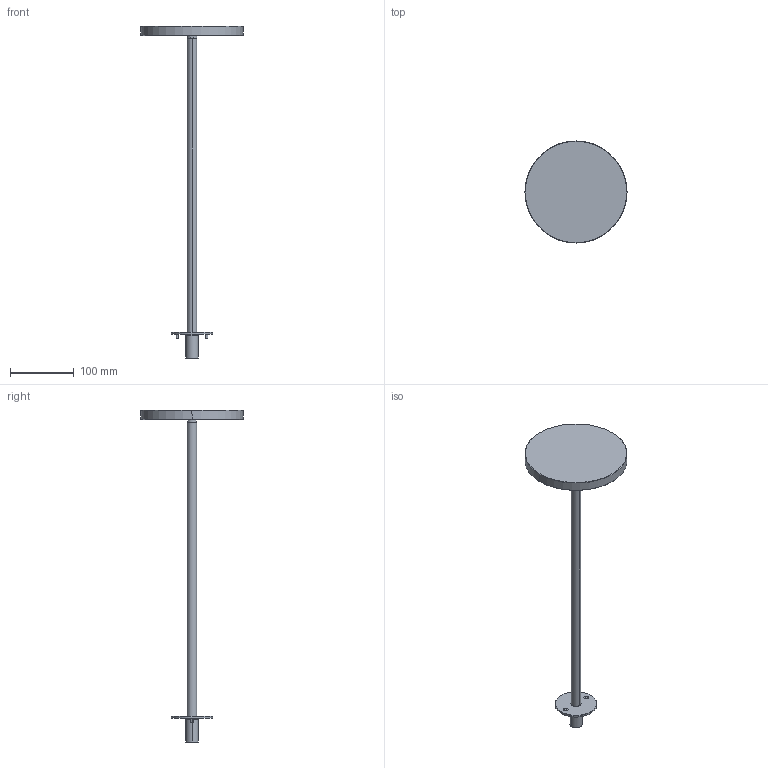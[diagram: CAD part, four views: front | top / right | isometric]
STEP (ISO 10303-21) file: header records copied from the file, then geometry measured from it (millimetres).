
FILE_DESCRIPTION((''),'2;1');
FILE_NAME('PICCHETTO_SW0001','2025-06-24T09:52:41',('Piccioli'),(''),'CREO PARAMETRIC BY PTC INC, 2025010','CREO PARAMETRIC BY PTC INC, 2025010','');
FILE_SCHEMA(('CONFIG_CONTROL_DESIGN'));
Length unit declared in the file: millimetre
Products named in the file (1): PICCHETTO_SW0001
Bounding box: 160 x 160 x 520 mm (x, y, z)
Surface area: 80034.7 mm2 (no closed solid volume)
Topology: 0 solids, 15 shells, 41 faces, 134 edges, 104 vertices
Faces by surface type: plane 15, cylinder 14, cone 8, torus 4
Entity records: 1614 total; most frequent: CARTESIAN_POINT 349, DIRECTION 294, ORIENTED_EDGE 184, EDGE_CURVE 134, AXIS2_PLACEMENT_3D 121, VERTEX_POINT 104, CIRCLE 80, EDGE_LOOP 54
